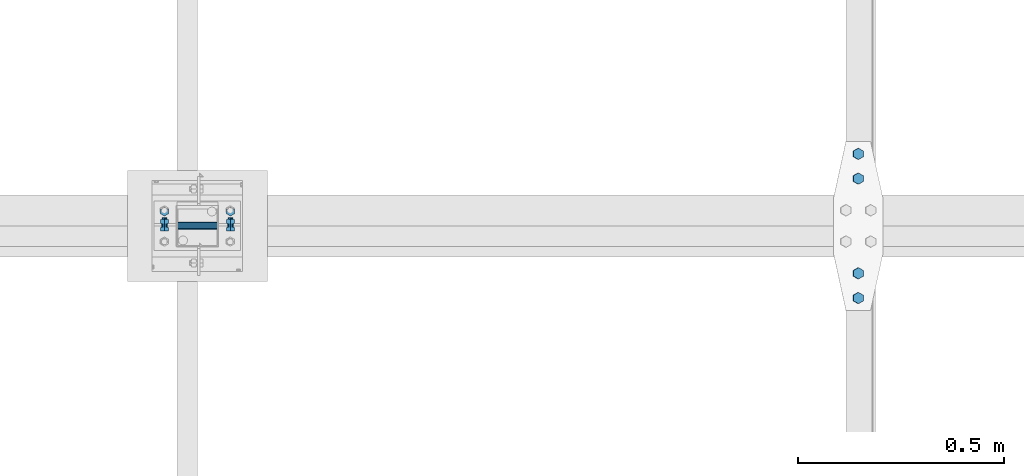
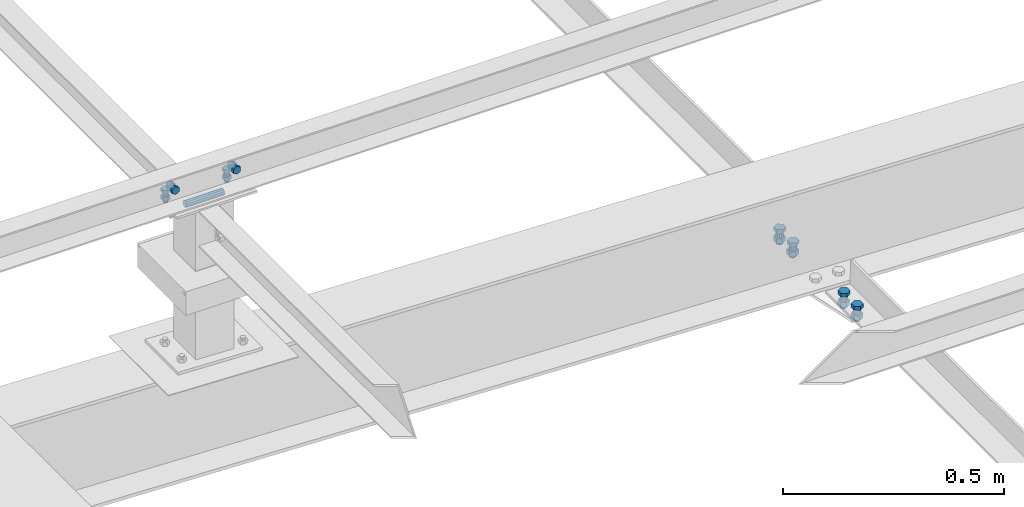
# One storey, part 184 of 3134: 5 mechanical fasteners, 4 elements without a shape of their own.
"""IFC2X3 building model written with IfcOpenShell, lengths in millimetres."""

import ifcopenshell
import ifcopenshell.guid

model = None  # the IFC model being written
_history = None  # IfcOwnerHistory: only IFC2X3 demands one
_inside = {}  # id of a spatial element -> (the spatial element, [elements in it])
_under = {}  # id of a project, library or spatial element -> (it, [spatial elements below it])
_declared = {}  # id of a project -> (the project, [libraries it declares])
_typed = {}  # id of a type object -> (the type object, [elements of that type])
_made_of = {}  # id of a material, layer set ... -> (it, [elements and type objects made of it])


def new_model(schema):
    """Start an empty IFC model of exactly this schema.

    Asked for "IFC4X3", IfcOpenShell would pick the latest addendum, in which some entities
    have other attributes; the version numbers below select the first issue.
    IFC2X3 requires an IfcOwnerHistory on every rooted entity: one is made here for all.
    """
    global model, _history
    if schema == "IFC4X3":
        model = ifcopenshell.file(schema_version=(4, 3, 0, 0))
    else:
        model = ifcopenshell.file(schema=schema)
    _inside.clear()
    _under.clear()
    _declared.clear()
    _typed.clear()
    _made_of.clear()
    _history = None
    if model.schema == "IFC2X3":
        org = make("IfcOrganization", Name="unknown")
        user = make(
            "IfcPersonAndOrganization",
            ThePerson=make("IfcPerson", FamilyName="unknown"),
            TheOrganization=org,
        )
        app = make(
            "IfcApplication",
            ApplicationDeveloper=org,
            Version="unknown",
            ApplicationFullName="unknown",
            ApplicationIdentifier="unknown",
        )
        _history = make(
            "IfcOwnerHistory",
            OwningUser=user,
            OwningApplication=app,
            ChangeAction="ADDED",
            CreationDate=0,
        )
    return model


def make(cls, **values):
    """One entity of the class cls with the attributes given. An attribute that is None is left unset."""
    return model.create_entity(
        cls, **{name: value for name, value in values.items() if value is not None}
    )


def rooted(cls, **values):
    """An entity with a GlobalId (a new one), such as an element, a storey or a relation."""
    return make(cls, GlobalId=ifcopenshell.guid.new(), OwnerHistory=_history, **values)


def si_unit(unit_type, name, prefix=None):
    """IfcSIUnit, for example si_unit("LENGTHUNIT", "METRE", prefix="MILLI")."""
    return make("IfcSIUnit", UnitType=unit_type, Prefix=prefix, Name=name)


def assignment(units):
    """IfcUnitAssignment: the units of a project."""
    return None if units is None else make("IfcUnitAssignment", Units=units)


def point(xyz):
    """IfcCartesianPoint."""
    return None if xyz is None else make("IfcCartesianPoint", Coordinates=xyz)


def direction(xyz):
    """IfcDirection."""
    return None if xyz is None else make("IfcDirection", DirectionRatios=xyz)


def frame(location, z_axis=None, x_axis=None):
    """IfcAxis2Placement3D, a coordinate frame: its origin and axes. An axis left out is left unset."""
    return make(
        "IfcAxis2Placement3D",
        Location=point(location),
        Axis=direction(z_axis),
        RefDirection=direction(x_axis),
    )


def origin_with_axes():
    """The frame at (0, 0, 0) with the z axis (0, 0, 1) and the x axis (1, 0, 0) written out."""
    return frame((0.0, 0.0, 0.0), z_axis=(0.0, 0.0, 1.0), x_axis=(1.0, 0.0, 0.0))


def place(relative_to, where):
    """IfcLocalPlacement: puts the frame where relative to a parent placement (None: the world)."""
    return make(
        "IfcLocalPlacement", PlacementRelTo=relative_to, RelativePlacement=where
    )


def context(
    kind, dimensions, precision=None, world=None, true_north=None, identifier=None
):
    """IfcGeometricRepresentationContext, for example the 3D "Model" context."""
    return make(
        "IfcGeometricRepresentationContext",
        ContextIdentifier=identifier,
        ContextType=kind,
        CoordinateSpaceDimension=dimensions,
        Precision=precision,
        WorldCoordinateSystem=world,
        TrueNorth=true_north,
    )


def subcontext(parent, identifier, kind, view, scale=None):
    """IfcGeometricRepresentationSubContext, for example "Body" below "Model"."""
    return make(
        "IfcGeometricRepresentationSubContext",
        ContextIdentifier=identifier,
        ContextType=kind,
        ParentContext=parent,
        TargetScale=scale,
        TargetView=view,
    )


def project(units=None, contexts=None):
    """IfcProject with its units and contexts."""
    return rooted(
        "IfcProject",
        Name="project",
        RepresentationContexts=contexts,
        UnitsInContext=assignment(units),
    )


def spatial(cls, under=None, at=None, **own):
    """A site, building, storey or space (cls), placed at a placement, below another one or the project."""
    s = rooted(cls, ObjectPlacement=at, **own)
    if under is not None:
        _under.setdefault(under.id(), (under, []))[1].append(s)
    return s


def faces_of(points, faces, orient=None, outer=None):
    """IfcFace entities. A face is a list of loops; a loop is a list of indices into points, from 0.

    orient and outer hold one flag for each loop. By default every Orientation is true, the
    first loop of a face is its IfcFaceOuterBound and the others are IfcFaceBound.
    """
    made = []
    for i, loops in enumerate(faces):
        bounds = []
        for j, loop in enumerate(loops):
            is_outer = j == 0 if outer is None else outer[i][j]
            bounds.append(
                make(
                    "IfcFaceOuterBound" if is_outer else "IfcFaceBound",
                    Bound=make("IfcPolyLoop", Polygon=[points[k] for k in loop]),
                    Orientation=True if orient is None else orient[i][j],
                )
            )
        made.append(make("IfcFace", Bounds=bounds))
    return made


def faceted_brep(points, faces, orient=None, outer=None, voids=None):
    """IfcFacetedBrep: a solid bounded by flat faces; with voids (closed shells), ...WithVoids."""
    shared = [point(p) for p in points]
    hull = make("IfcClosedShell", CfsFaces=faces_of(shared, faces, orient, outer))
    if voids is None:
        return make("IfcFacetedBrep", Outer=hull)
    return make(
        "IfcFacetedBrepWithVoids",
        Outer=hull,
        Voids=[
            make(cls, CfsFaces=faces_of(shared, fs, o, b)) for cls, fs, o, b in voids
        ],
    )


def shape(context_of_items, identifier, shape_type, items):
    """IfcShapeRepresentation: the items that make up one representation, for example the "Body"."""
    return make(
        "IfcShapeRepresentation",
        ContextOfItems=context_of_items,
        RepresentationIdentifier=identifier,
        RepresentationType=shape_type,
        Items=items,
    )


def source(mapping_origin, context_of_items, identifier, shape_type, items):
    """IfcRepresentationMap: a shape defined once, which mapped items show again and again."""
    return make(
        "IfcRepresentationMap",
        MappingOrigin=mapping_origin,
        MappedRepresentation=shape(context_of_items, identifier, shape_type, items),
    )


def transform(
    local_origin,
    x_axis=None,
    y_axis=None,
    z_axis=None,
    scale=None,
    scale2=None,
    scale3=None,
    uniform=True,
):
    """IfcCartesianTransformationOperator3D, or its non-uniform kind. x_axis, y_axis, z_axis: its Axis1, 2, 3."""
    if uniform:
        return make(
            "IfcCartesianTransformationOperator3D",
            Axis1=direction(x_axis),
            Axis2=direction(y_axis),
            LocalOrigin=point(local_origin),
            Scale=scale,
            Axis3=direction(z_axis),
        )
    return make(
        "IfcCartesianTransformationOperator3DnonUniform",
        Axis1=direction(x_axis),
        Axis2=direction(y_axis),
        LocalOrigin=point(local_origin),
        Scale=scale,
        Axis3=direction(z_axis),
        Scale2=scale2,
        Scale3=scale3,
    )


def mapped(mapping_source, mapping_target):
    """IfcMappedItem: shows the shape of a source again, moved by a transform."""
    return make(
        "IfcMappedItem", MappingSource=mapping_source, MappingTarget=mapping_target
    )


def material(Name=None, Category=None):
    """IfcMaterial."""
    return make("IfcMaterial", Name=Name, Category=Category)


def made_of(thing, what):
    """Note that an element or type object is made of a material, layer set ...; save() writes the relation."""
    if what is not None:
        _made_of.setdefault(what.id(), (what, []))[1].append(thing)
    return thing


def type_object(cls, material=None, **own):
    """A type object (cls), such as IfcWallType, which elements share."""
    return made_of(rooted(cls, **own), material)


def element(
    cls,
    number,
    at=None,
    inside=None,
    cuts=None,
    type_object=None,
    material=None,
    context=None,
    identifier="Body",
    shape_type=None,
    held_by="IfcProductDefinitionShape",
    body=None,
    shapes=None,
    **own,
):
    """One element of the class cls, such as IfcWall. Its Tag is "e" and its number.

    at: its placement. inside: the storey or other place that contains it. cuts: it is an
    opening in that element (IfcRelVoidsElement). A single representation is given by context,
    identifier, shape_type and body (its items); several are given by shapes. held_by: the class
    of the entity that holds the representations. save() writes the other relations.
    """
    e = rooted(cls, Tag="e%d" % number, ObjectPlacement=at, **own)
    if body is not None:
        shapes = [shape(context, identifier, shape_type, body)]
    if shapes is not None:
        e.Representation = make(held_by, Representations=shapes)
    if inside is not None:
        _inside.setdefault(inside.id(), (inside, []))[1].append(e)
    if cuts is not None:
        rooted(
            "IfcRelVoidsElement", RelatingBuildingElement=cuts, RelatedOpeningElement=e
        )
    if type_object is not None:
        _typed.setdefault(type_object.id(), (type_object, []))[1].append(e)
    return made_of(e, material)


def aggregate(whole, parts):
    """IfcRelAggregates: a whole, such as a stair, and the parts it consists of."""
    return rooted("IfcRelAggregates", RelatingObject=whole, RelatedObjects=parts)


def save(model, path):
    """Write the relations noted so far, then the file.

    IfcRelAggregates (storeys below a building ...), IfcRelContainedInSpatialStructure (elements
    in a storey), IfcRelDefinesByType, IfcRelAssociatesMaterial and IfcRelDeclares: one each for
    every whole, place, type object, material and project.
    """
    for whole, parts in _under.values():
        aggregate(whole, parts)
    for where, things in _inside.values():
        rooted(
            "IfcRelContainedInSpatialStructure",
            RelatedElements=things,
            RelatingStructure=where,
        )
    for kind, things in _typed.values():
        rooted("IfcRelDefinesByType", RelatedObjects=things, RelatingType=kind)
    for what, things in _made_of.values():
        rooted("IfcRelAssociatesMaterial", RelatedObjects=things, RelatingMaterial=what)
    for by, libraries in _declared.values():
        rooted("IfcRelDeclares", RelatingContext=by, RelatedDefinitions=libraries)
    model.write(path)


model = new_model("IFC2X3")

# Units and contexts
model_context = context("Model", 3, precision=1e-05, world=origin_with_axes())
body_context = subcontext(model_context, "Body", "Model", "MODEL_VIEW")
ifc_project = project(units=[si_unit("LENGTHUNIT", "METRE", prefix="MILLI"), si_unit("AREAUNIT", "SQUARE_METRE"), si_unit("VOLUMEUNIT", "CUBIC_METRE"), si_unit("MASSUNIT", "GRAM", prefix="KILO"), si_unit("TIMEUNIT", "SECOND"), si_unit("PLANEANGLEUNIT", "RADIAN"), si_unit("SOLIDANGLEUNIT", "STERADIAN"), si_unit("THERMODYNAMICTEMPERATUREUNIT", "DEGREE_CELSIUS"), si_unit("LUMINOUSINTENSITYUNIT", "LUMEN")], contexts=[model_context])

# Site, building, storey
site_placement = place(None, origin_with_axes())
site = spatial("IfcSite", under=ifc_project, at=site_placement, CompositionType="ELEMENT")
building_placement = place(site_placement, origin_with_axes())
building = spatial("IfcBuilding", under=site, at=building_placement, Name="Undefined", CompositionType="ELEMENT")
storey_placement = place(building_placement, origin_with_axes())
storey = spatial("IfcBuildingStorey", under=building, at=storey_placement, Name="Undefined", CompositionType="ELEMENT", Elevation=0.0)

# Assembly, mechanical fastener
assembly_1_placement = place(storey_placement, origin_with_axes())
assembly_1 = element("IfcElementAssembly", 1, at=assembly_1_placement, inside=storey, AssemblyPlace="NOTDEFINED", PredefinedType="RIGID_FRAME")
ifc_material = material(Name="8.8")
mechanical_fastener_type = type_object("IfcMechanicalFastenerType", Name="Bolt assembly")
shared_shape_1 = source(origin_with_axes(), body_context, "Body", "Brep", [
    faceted_brep([(10.9696551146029, -14.0, 0.0), (5.48482755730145, -14.0, 9.5), (-5.48482755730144, -14.0, 9.5), (-10.9696551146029, -14.0, 1.34339530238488e-15), (-5.48482755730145, -14.0, -9.5), (5.48482755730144, -14.0, -9.50000000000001), (5.48482755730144, -6.0, -9.50000000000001), (-5.48482755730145, -6.0, -9.5), (-10.9696551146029, -6.0, 1.34339530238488e-15), (-5.48482755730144, -6.0, 9.5), (5.48482755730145, -6.0, 9.5), (10.9696551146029, -6.0, 0.0), (6.0, -6.0, 0.0), (5.19615242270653, -6.0, 3.00000000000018), (2.99999999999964, -6.0, 5.19615242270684), (-6.21801588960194e-13, -6.0, 6.0), (-3.00000000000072, -6.0, 5.19615242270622), (-5.19615242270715, -6.0, 2.9999999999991), (-6.0, -6.0, -1.24360317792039e-12), (-5.19615242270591, -6.0, -3.00000000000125), (-2.99999999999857, -6.0, -5.19615242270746), (1.85874342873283e-12, -6.0, -6.0), (3.00000000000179, -6.0, -5.1961524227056), (5.19615242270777, -6.0, -2.99999999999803), (5.19615242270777, 24.0, -2.99999999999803), (3.00000000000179, 24.0, -5.1961524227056), (1.85874342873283e-12, 24.0, -6.0), (-2.99999999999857, 24.0, -5.19615242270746), (-5.19615242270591, 24.0, -3.00000000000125), (-6.0, 24.0, -1.24360317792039e-12), (-5.19615242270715, 24.0, 2.9999999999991), (-3.00000000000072, 24.0, 5.19615242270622), (-6.21801588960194e-13, 24.0, 6.0), (2.99999999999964, 24.0, 5.19615242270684), (5.19615242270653, 24.0, 3.00000000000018), (6.0, 24.0, 0.0), (10.9696551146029, 6.00000000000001, 0.0), (5.48482755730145, 6.00000000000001, 9.5), (-5.48482755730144, 6.00000000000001, 9.5), (-10.9696551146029, 6.00000000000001, 1.34339530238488e-15), (-5.48482755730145, 6.00000000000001, -9.5), (5.48482755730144, 6.00000000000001, -9.50000000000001), (5.48482755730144, 16.0, -9.50000000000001), (-5.48482755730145, 16.0, -9.5), (-10.9696551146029, 16.0, 1.34339530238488e-15), (-5.48482755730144, 16.0, 9.5), (5.48482755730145, 16.0, 9.5), (10.9696551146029, 16.0, 0.0)], [[[0, 1, 2, 3, 4, 5]], [[6, 7, 8, 9, 10, 11]], [[0, 11, 10, 1]], [[1, 10, 9, 2]], [[2, 9, 8, 3]], [[3, 8, 7, 4]], [[4, 7, 6, 5]], [[5, 6, 11, 0]], [[12, 13, 14, 15, 16, 17, 18, 19, 20, 21, 22, 23]], [[24, 25, 26, 27, 28, 29, 30, 31, 32, 33, 34, 35]], [[12, 35, 34, 13]], [[13, 34, 33, 14]], [[14, 33, 32, 15]], [[15, 32, 31, 16]], [[16, 31, 30, 17]], [[17, 30, 29, 18]], [[18, 29, 28, 19]], [[19, 28, 27, 20]], [[20, 27, 26, 21]], [[21, 26, 25, 22]], [[22, 25, 24, 23]], [[23, 24, 35, 12]], [[36, 37, 38, 39, 40, 41]], [[42, 43, 44, 45, 46, 47]], [[36, 47, 46, 37]], [[37, 46, 45, 38]], [[38, 45, 44, 39]], [[39, 44, 43, 40]], [[40, 43, 42, 41]], [[41, 42, 47, 36]]]),
    faceted_brep([(7.0, -0.1, 0.0), (6.06217782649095, -0.1, 3.50000000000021), (3.49999999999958, -0.1, 6.06217782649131), (-7.25435187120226e-13, -0.1, 7.0), (-3.50000000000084, -0.1, 6.06217782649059), (-6.06217782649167, -0.1, 3.49999999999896), (-7.0, -0.1, -1.45087037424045e-12), (-6.06217782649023, -0.1, -3.50000000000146), (-3.49999999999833, -0.1, -6.06217782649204), (2.1685340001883e-12, -0.1, -7.0), (3.50000000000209, -0.1, -6.06217782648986), (6.0621778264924, -0.1, -3.4999999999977), (6.0621778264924, 6.00000000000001, -3.4999999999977), (3.50000000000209, 6.00000000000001, -6.06217782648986), (2.1685340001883e-12, 6.00000000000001, -7.0), (-3.49999999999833, 6.00000000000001, -6.06217782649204), (-6.06217782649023, 6.00000000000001, -3.50000000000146), (-7.0, 6.00000000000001, -1.45087037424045e-12), (-6.06217782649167, 6.00000000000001, 3.49999999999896), (-3.50000000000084, 6.00000000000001, 6.06217782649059), (-7.25435187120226e-13, 6.00000000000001, 7.0), (3.49999999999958, 6.00000000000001, 6.06217782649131), (6.06217782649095, 6.00000000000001, 3.50000000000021), (7.0, 6.00000000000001, 0.0), (7.0, -5.9, 0.0), (6.06217782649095, -5.9, 3.50000000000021), (3.49999999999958, -5.9, 6.06217782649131), (-7.25435187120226e-13, -5.9, 7.0), (-3.50000000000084, -5.9, 6.06217782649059), (-6.06217782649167, -5.9, 3.49999999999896), (-7.0, -5.9, -1.45087037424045e-12), (-6.06217782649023, -5.9, -3.50000000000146), (-3.49999999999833, -5.9, -6.06217782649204), (2.1685340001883e-12, -5.9, -7.0), (3.50000000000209, -5.9, -6.06217782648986), (6.0621778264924, -5.9, -3.4999999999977), (6.0621778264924, 0.0999999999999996, -3.4999999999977), (3.50000000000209, 0.0999999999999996, -6.06217782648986), (2.1685340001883e-12, 0.0999999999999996, -7.0), (-3.49999999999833, 0.0999999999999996, -6.06217782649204), (-6.06217782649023, 0.0999999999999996, -3.50000000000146), (-7.0, 0.0999999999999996, -1.45087037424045e-12), (-6.06217782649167, 0.0999999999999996, 3.49999999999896), (-3.50000000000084, 0.0999999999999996, 6.06217782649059), (-7.25435187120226e-13, 0.0999999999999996, 7.0), (3.49999999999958, 0.0999999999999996, 6.06217782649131), (6.06217782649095, 0.0999999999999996, 3.50000000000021), (7.0, 0.0999999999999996, 0.0)], [[[0, 1, 2, 3, 4, 5, 6, 7, 8, 9, 10, 11]], [[12, 13, 14, 15, 16, 17, 18, 19, 20, 21, 22, 23]], [[0, 23, 22, 1]], [[1, 22, 21, 2]], [[2, 21, 20, 3]], [[3, 20, 19, 4]], [[4, 19, 18, 5]], [[5, 18, 17, 6]], [[6, 17, 16, 7]], [[7, 16, 15, 8]], [[8, 15, 14, 9]], [[9, 14, 13, 10]], [[10, 13, 12, 11]], [[11, 12, 23, 0]], [[24, 25, 26, 27, 28, 29, 30, 31, 32, 33, 34, 35]], [[36, 37, 38, 39, 40, 41, 42, 43, 44, 45, 46, 47]], [[24, 47, 46, 25]], [[25, 46, 45, 26]], [[26, 45, 44, 27]], [[27, 44, 43, 28]], [[28, 43, 42, 29]], [[29, 42, 41, 30]], [[30, 41, 40, 31]], [[31, 40, 39, 32]], [[32, 39, 38, 33]], [[33, 38, 37, 34]], [[34, 37, 36, 35]], [[35, 36, 47, 24]]]),
])
mechanical_fastener_1_placement = place(assembly_1_placement, frame((3043.33, 40285.0, 4365.0), z_axis=(1.0, 0.0, 0.0), x_axis=(0.0, -1.0, 0.0)))
mechanical_fastener_1 = element("IfcMechanicalFastener", 2, at=mechanical_fastener_1_placement, type_object=mechanical_fastener_type, material=ifc_material, Name="Bolt assembly", NominalDiameter=12.0, NominalLength=30.0, context=body_context, shape_type="MappedRepresentation", body=[
    mapped(shared_shape_1, transform((0.0, -5.32963895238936e-10, -79.9999999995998))),
    mapped(shared_shape_1, transform((0.0, 5.3114490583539e-10, 79.9999999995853))),
])

assembly_2_placement = place(storey_placement, origin_with_axes())
assembly_2 = element("IfcElementAssembly", 3, at=assembly_2_placement, inside=storey, Name="PL8", AssemblyPlace="NOTDEFINED", PredefinedType="RIGID_FRAME")
shared_shape_2 = source(origin_with_axes(), body_context, "Body", "Brep", [
    faceted_brep([(13.856406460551, -21.0000017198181, 0.0), (6.92820323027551, -21.0000017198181, 12.0), (-6.92820323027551, -21.0000017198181, 12.0), (-13.856406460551, -21.0000017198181, 1.69692038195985e-15), (-6.92820323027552, -21.0000017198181, -12.0), (6.9282032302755, -21.0000017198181, -12.0), (6.9282032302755, -11.0000017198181, -12.0), (-6.92820323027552, -11.0000017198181, -12.0), (-13.856406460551, -11.0000017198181, 1.69692038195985e-15), (-6.92820323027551, -11.0000017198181, 12.0), (6.92820323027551, -11.0000017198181, 12.0), (13.856406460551, -11.0000017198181, 0.0), (8.0, -11.0000017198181, 0.0), (6.92820323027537, -11.0000017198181, 4.00000000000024), (3.99999999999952, -11.0000017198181, 6.92820323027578), (-8.29068785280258e-13, -11.0000017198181, 8.0), (-4.00000000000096, -11.0000017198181, 6.92820323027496), (-6.9282032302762, -11.0000017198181, 3.99999999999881), (-8.0, -11.0000017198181, -1.65813757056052e-12), (-6.92820323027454, -11.0000017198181, -4.00000000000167), (-3.99999999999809, -11.0000017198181, -6.92820323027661), (2.47832457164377e-12, -11.0000017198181, -8.0), (4.00000000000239, -11.0000017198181, -6.92820323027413), (6.92820323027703, -11.0000017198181, -3.99999999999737), (6.92820323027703, 23.9999999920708, -3.99999999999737), (4.00000000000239, 23.9999999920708, -6.92820323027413), (2.47832457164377e-12, 23.9999999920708, -8.0), (-3.99999999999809, 23.9999999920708, -6.92820323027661), (-6.92820323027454, 23.9999999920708, -4.00000000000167), (-8.0, 23.9999999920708, -1.65813757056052e-12), (-6.9282032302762, 23.9999999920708, 3.99999999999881), (-4.00000000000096, 23.9999999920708, 6.92820323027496), (-8.29068785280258e-13, 23.9999999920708, 8.0), (3.99999999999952, 23.9999999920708, 6.92820323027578), (6.92820323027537, 23.9999999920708, 4.00000000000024), (8.0, 23.9999999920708, 0.0), (13.856406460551, 3.99999999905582, 0.0), (6.92820323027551, 3.99999999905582, 12.0), (-6.92820323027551, 3.99999999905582, 12.0), (-13.856406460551, 3.99999999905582, 1.69692038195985e-15), (-6.92820323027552, 3.99999999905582, -12.0), (6.9282032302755, 3.99999999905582, -12.0), (6.9282032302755, 16.9999999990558, -12.0), (-6.92820323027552, 16.9999999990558, -12.0), (-13.856406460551, 16.9999999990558, 1.69692038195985e-15), (-6.92820323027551, 16.9999999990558, 12.0), (6.92820323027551, 16.9999999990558, 12.0), (13.856406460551, 16.9999999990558, 0.0)], [[[0, 1, 2, 3, 4, 5]], [[6, 7, 8, 9, 10, 11]], [[0, 11, 10, 1]], [[1, 10, 9, 2]], [[2, 9, 8, 3]], [[3, 8, 7, 4]], [[4, 7, 6, 5]], [[5, 6, 11, 0]], [[12, 13, 14, 15, 16, 17, 18, 19, 20, 21, 22, 23]], [[24, 25, 26, 27, 28, 29, 30, 31, 32, 33, 34, 35]], [[12, 35, 34, 13]], [[13, 34, 33, 14]], [[14, 33, 32, 15]], [[15, 32, 31, 16]], [[16, 31, 30, 17]], [[17, 30, 29, 18]], [[18, 29, 28, 19]], [[19, 28, 27, 20]], [[20, 27, 26, 21]], [[21, 26, 25, 22]], [[22, 25, 24, 23]], [[23, 24, 35, 12]], [[36, 37, 38, 39, 40, 41]], [[42, 43, 44, 45, 46, 47]], [[36, 47, 46, 37]], [[37, 46, 45, 38]], [[38, 45, 44, 39]], [[39, 44, 43, 40]], [[40, 43, 42, 41]], [[41, 42, 47, 36]]]),
    faceted_brep([(9.0, -10.9000017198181, 0.0), (7.79422863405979, -10.9000017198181, 4.50000000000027), (4.49999999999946, -10.9000017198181, 7.79422863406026), (-9.3270238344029e-13, -10.9000017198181, 9.0), (-4.50000000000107, -10.9000017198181, 7.79422863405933), (-7.79422863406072, -10.9000017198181, 4.49999999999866), (-9.0, -10.9000017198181, -1.86540476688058e-12), (-7.79422863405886, -10.9000017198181, -4.50000000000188), (-4.49999999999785, -10.9000017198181, -7.79422863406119), (2.78811514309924e-12, -10.9000017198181, -9.0), (4.50000000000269, -10.9000017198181, -7.7942286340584), (7.79422863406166, -10.9000017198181, -4.49999999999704), (7.79422863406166, -3.9, -4.49999999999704), (4.50000000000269, -3.9, -7.7942286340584), (2.78811514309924e-12, -3.9, -9.0), (-4.49999999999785, -3.9, -7.79422863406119), (-7.79422863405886, -3.9, -4.50000000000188), (-9.0, -3.9, -1.86540476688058e-12), (-7.79422863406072, -3.9, 4.49999999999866), (-4.50000000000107, -3.9, 7.79422863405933), (-9.3270238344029e-13, -3.9, 9.0), (4.49999999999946, -3.9, 7.79422863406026), (7.79422863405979, -3.9, 4.50000000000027), (9.0, -3.9, 0.0), (9.0, -4.10000000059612, 0.0), (7.79422863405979, -4.10000000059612, 4.50000000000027), (4.49999999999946, -4.10000000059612, 7.79422863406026), (-9.3270238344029e-13, -4.10000000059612, 9.0), (-4.50000000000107, -4.10000000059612, 7.79422863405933), (-7.79422863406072, -4.10000000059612, 4.49999999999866), (-9.0, -4.10000000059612, -1.86540476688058e-12), (-7.79422863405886, -4.10000000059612, -4.50000000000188), (-4.49999999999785, -4.10000000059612, -7.79422863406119), (2.78811514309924e-12, -4.10000000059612, -9.0), (4.50000000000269, -4.10000000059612, -7.7942286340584), (7.79422863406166, -4.10000000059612, -4.49999999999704), (7.79422863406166, 4.00000375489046, -4.49999999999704), (4.50000000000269, 4.00000375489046, -7.7942286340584), (2.78811514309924e-12, 4.00000375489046, -9.0), (-4.49999999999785, 4.00000375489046, -7.79422863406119), (-7.79422863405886, 4.00000375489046, -4.50000000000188), (-9.0, 4.00000375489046, -1.86540476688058e-12), (-7.79422863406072, 4.00000375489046, 4.49999999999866), (-4.50000000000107, 4.00000375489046, 7.79422863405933), (-9.3270238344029e-13, 4.00000375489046, 9.0), (4.49999999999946, 4.00000375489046, 7.79422863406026), (7.79422863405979, 4.00000375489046, 4.50000000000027), (9.0, 4.00000375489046, 0.0)], [[[0, 1, 2, 3, 4, 5, 6, 7, 8, 9, 10, 11]], [[12, 13, 14, 15, 16, 17, 18, 19, 20, 21, 22, 23]], [[0, 23, 22, 1]], [[1, 22, 21, 2]], [[2, 21, 20, 3]], [[3, 20, 19, 4]], [[4, 19, 18, 5]], [[5, 18, 17, 6]], [[6, 17, 16, 7]], [[7, 16, 15, 8]], [[8, 15, 14, 9]], [[9, 14, 13, 10]], [[10, 13, 12, 11]], [[11, 12, 23, 0]], [[24, 25, 26, 27, 28, 29, 30, 31, 32, 33, 34, 35]], [[36, 37, 38, 39, 40, 41, 42, 43, 44, 45, 46, 47]], [[24, 47, 46, 25]], [[25, 46, 45, 26]], [[26, 45, 44, 27]], [[27, 44, 43, 28]], [[28, 43, 42, 29]], [[29, 42, 41, 30]], [[30, 41, 40, 31]], [[31, 40, 39, 32]], [[32, 39, 38, 33]], [[33, 38, 37, 34]], [[34, 37, 36, 35]], [[35, 36, 47, 24]]]),
])
mechanical_fastener_2_placement = place(assembly_2_placement, frame((4647.50483525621, 40365.0, 3576.15051900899), z_axis=(-0.999388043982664, 0.0, 0.0349791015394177), x_axis=(0.0, 1.0, 0.0)))
mechanical_fastener_2 = element("IfcMechanicalFastener", 4, at=mechanical_fastener_2_placement, type_object=mechanical_fastener_type, material=ifc_material, Name="Bolt assembly", NominalDiameter=16.0, NominalLength=35.0, context=body_context, shape_type="MappedRepresentation", body=[
    mapped(shared_shape_2, transform((0.0, 0.0, 0.0))),
    mapped(shared_shape_2, transform((59.9999999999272, 0.0, 5.40239852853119e-10))),
])
aggregate(assembly_2, [mechanical_fastener_2])

assembly_3_placement = place(storey_placement, origin_with_axes())
assembly_3 = element("IfcElementAssembly", 5, at=assembly_3_placement, inside=storey, AssemblyPlace="NOTDEFINED", PredefinedType="RIGID_FRAME")
shared_shape_3 = source(origin_with_axes(), body_context, "Body", "Brep", [
    faceted_brep([(13.856406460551, -21.0000017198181, 0.0), (6.92820323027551, -21.0000017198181, 12.0), (-6.92820323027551, -21.0000017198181, 12.0), (-13.856406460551, -21.0000017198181, 1.69692038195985e-15), (-6.92820323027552, -21.0000017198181, -12.0), (6.9282032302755, -21.0000017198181, -12.0), (6.9282032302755, -11.0000017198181, -12.0), (-6.92820323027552, -11.0000017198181, -12.0), (-13.856406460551, -11.0000017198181, 1.69692038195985e-15), (-6.92820323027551, -11.0000017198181, 12.0), (6.92820323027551, -11.0000017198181, 12.0), (13.856406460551, -11.0000017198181, 0.0), (8.0, -11.0000017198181, 0.0), (6.92820323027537, -11.0000017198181, 4.00000000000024), (3.99999999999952, -11.0000017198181, 6.92820323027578), (-8.29068785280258e-13, -11.0000017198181, 8.0), (-4.00000000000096, -11.0000017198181, 6.92820323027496), (-6.9282032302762, -11.0000017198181, 3.99999999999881), (-8.0, -11.0000017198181, -1.65813757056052e-12), (-6.92820323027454, -11.0000017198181, -4.00000000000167), (-3.99999999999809, -11.0000017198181, -6.92820323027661), (2.47832457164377e-12, -11.0000017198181, -8.0), (4.00000000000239, -11.0000017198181, -6.92820323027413), (6.92820323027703, -11.0000017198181, -3.99999999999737), (6.92820323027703, 23.9999999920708, -3.99999999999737), (4.00000000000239, 23.9999999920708, -6.92820323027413), (2.47832457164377e-12, 23.9999999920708, -8.0), (-3.99999999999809, 23.9999999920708, -6.92820323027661), (-6.92820323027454, 23.9999999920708, -4.00000000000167), (-8.0, 23.9999999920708, -1.65813757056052e-12), (-6.9282032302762, 23.9999999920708, 3.99999999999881), (-4.00000000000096, 23.9999999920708, 6.92820323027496), (-8.29068785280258e-13, 23.9999999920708, 8.0), (3.99999999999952, 23.9999999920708, 6.92820323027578), (6.92820323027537, 23.9999999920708, 4.00000000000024), (8.0, 23.9999999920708, 0.0), (13.856406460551, 3.99999999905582, 0.0), (6.92820323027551, 3.99999999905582, 12.0), (-6.92820323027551, 3.99999999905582, 12.0), (-13.856406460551, 3.99999999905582, 1.69692038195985e-15), (-6.92820323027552, 3.99999999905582, -12.0), (6.9282032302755, 3.99999999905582, -12.0), (6.9282032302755, 16.9999999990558, -12.0), (-6.92820323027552, 16.9999999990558, -12.0), (-13.856406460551, 16.9999999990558, 1.69692038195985e-15), (-6.92820323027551, 16.9999999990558, 12.0), (6.92820323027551, 16.9999999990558, 12.0), (13.856406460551, 16.9999999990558, 0.0)], [[[0, 1, 2, 3, 4, 5]], [[6, 7, 8, 9, 10, 11]], [[0, 11, 10, 1]], [[1, 10, 9, 2]], [[2, 9, 8, 3]], [[3, 8, 7, 4]], [[4, 7, 6, 5]], [[5, 6, 11, 0]], [[12, 13, 14, 15, 16, 17, 18, 19, 20, 21, 22, 23]], [[24, 25, 26, 27, 28, 29, 30, 31, 32, 33, 34, 35]], [[12, 35, 34, 13]], [[13, 34, 33, 14]], [[14, 33, 32, 15]], [[15, 32, 31, 16]], [[16, 31, 30, 17]], [[17, 30, 29, 18]], [[18, 29, 28, 19]], [[19, 28, 27, 20]], [[20, 27, 26, 21]], [[21, 26, 25, 22]], [[22, 25, 24, 23]], [[23, 24, 35, 12]], [[36, 37, 38, 39, 40, 41]], [[42, 43, 44, 45, 46, 47]], [[36, 47, 46, 37]], [[37, 46, 45, 38]], [[38, 45, 44, 39]], [[39, 44, 43, 40]], [[40, 43, 42, 41]], [[41, 42, 47, 36]]]),
    faceted_brep([(9.0, -4.10000000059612, 0.0), (7.79422863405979, -4.10000000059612, 4.50000000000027), (4.49999999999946, -4.10000000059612, 7.79422863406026), (-9.3270238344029e-13, -4.10000000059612, 9.0), (-4.50000000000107, -4.10000000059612, 7.79422863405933), (-7.79422863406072, -4.10000000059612, 4.49999999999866), (-9.0, -4.10000000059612, -1.86540476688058e-12), (-7.79422863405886, -4.10000000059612, -4.50000000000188), (-4.49999999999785, -4.10000000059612, -7.79422863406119), (2.78811514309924e-12, -4.10000000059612, -9.0), (4.50000000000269, -4.10000000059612, -7.7942286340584), (7.79422863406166, -4.10000000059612, -4.49999999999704), (7.79422863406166, 4.00000375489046, -4.49999999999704), (4.50000000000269, 4.00000375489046, -7.7942286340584), (2.78811514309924e-12, 4.00000375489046, -9.0), (-4.49999999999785, 4.00000375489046, -7.79422863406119), (-7.79422863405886, 4.00000375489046, -4.50000000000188), (-9.0, 4.00000375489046, -1.86540476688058e-12), (-7.79422863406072, 4.00000375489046, 4.49999999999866), (-4.50000000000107, 4.00000375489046, 7.79422863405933), (-9.3270238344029e-13, 4.00000375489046, 9.0), (4.49999999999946, 4.00000375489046, 7.79422863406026), (7.79422863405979, 4.00000375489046, 4.50000000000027), (9.0, 4.00000375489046, 0.0), (9.0, -10.9000017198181, 0.0), (7.79422863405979, -10.9000017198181, 4.50000000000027), (4.49999999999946, -10.9000017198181, 7.79422863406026), (-9.3270238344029e-13, -10.9000017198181, 9.0), (-4.50000000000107, -10.9000017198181, 7.79422863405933), (-7.79422863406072, -10.9000017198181, 4.49999999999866), (-9.0, -10.9000017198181, -1.86540476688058e-12), (-7.79422863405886, -10.9000017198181, -4.50000000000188), (-4.49999999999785, -10.9000017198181, -7.79422863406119), (2.78811514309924e-12, -10.9000017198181, -9.0), (4.50000000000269, -10.9000017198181, -7.7942286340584), (7.79422863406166, -10.9000017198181, -4.49999999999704), (7.79422863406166, -3.9, -4.49999999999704), (4.50000000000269, -3.9, -7.7942286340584), (2.78811514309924e-12, -3.9, -9.0), (-4.49999999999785, -3.9, -7.79422863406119), (-7.79422863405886, -3.9, -4.50000000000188), (-9.0, -3.9, -1.86540476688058e-12), (-7.79422863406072, -3.9, 4.49999999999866), (-4.50000000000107, -3.9, 7.79422863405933), (-9.3270238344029e-13, -3.9, 9.0), (4.49999999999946, -3.9, 7.79422863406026), (7.79422863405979, -3.9, 4.50000000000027), (9.0, -3.9, 0.0)], [[[0, 1, 2, 3, 4, 5, 6, 7, 8, 9, 10, 11]], [[12, 13, 14, 15, 16, 17, 18, 19, 20, 21, 22, 23]], [[0, 23, 22, 1]], [[1, 22, 21, 2]], [[2, 21, 20, 3]], [[3, 20, 19, 4]], [[4, 19, 18, 5]], [[5, 18, 17, 6]], [[6, 17, 16, 7]], [[7, 16, 15, 8]], [[8, 15, 14, 9]], [[9, 14, 13, 10]], [[10, 13, 12, 11]], [[11, 12, 23, 0]], [[24, 25, 26, 27, 28, 29, 30, 31, 32, 33, 34, 35]], [[36, 37, 38, 39, 40, 41, 42, 43, 44, 45, 46, 47]], [[24, 47, 46, 25]], [[25, 46, 45, 26]], [[26, 45, 44, 27]], [[27, 44, 43, 28]], [[28, 43, 42, 29]], [[29, 42, 41, 30]], [[30, 41, 40, 31]], [[31, 40, 39, 32]], [[32, 39, 38, 33]], [[33, 38, 37, 34]], [[34, 37, 36, 35]], [[35, 36, 47, 24]]]),
])
mechanical_fastener_3_placement = place(assembly_3_placement, frame((4647.50483526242, 40075.0, 3576.15051900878), z_axis=(-0.999388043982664, 0.0, 0.0349791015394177), x_axis=(0.0, 1.0, 0.0)))
mechanical_fastener_3 = element("IfcMechanicalFastener", 6, at=mechanical_fastener_3_placement, type_object=mechanical_fastener_type, material=ifc_material, Name="Bolt assembly", NominalDiameter=16.0, NominalLength=35.0, context=body_context, shape_type="MappedRepresentation", body=[
    mapped(shared_shape_3, transform((0.0, 0.0, 0.0))),
    mapped(shared_shape_3, transform((59.9999999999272, 0.0, 5.40239852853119e-10))),
])
aggregate(assembly_3, [mechanical_fastener_3])

assembly_4_placement = place(storey_placement, origin_with_axes())
assembly_4 = element("IfcElementAssembly", 7, at=assembly_4_placement, inside=storey, AssemblyPlace="NOTDEFINED", PredefinedType="RIGID_FRAME")
shared_shape_4 = source(origin_with_axes(), body_context, "Body", "Brep", [
    faceted_brep([(9.0, -50.0, 0.0), (7.79422863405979, -50.0, 4.50000000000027), (4.49999999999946, -50.0, 7.79422863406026), (-9.3270238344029e-13, -50.0, 9.0), (-4.50000000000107, -50.0, 7.79422863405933), (-7.79422863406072, -50.0, 4.49999999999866), (-9.0, -50.0, -1.86540476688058e-12), (-7.79422863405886, -50.0, -4.50000000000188), (-4.49999999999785, -50.0, -7.79422863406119), (2.78811514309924e-12, -50.0, -9.0), (4.50000000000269, -50.0, -7.7942286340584), (7.79422863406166, -50.0, -4.49999999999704), (7.79422863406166, 50.1, -4.49999999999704), (4.50000000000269, 50.1, -7.7942286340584), (2.78811514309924e-12, 50.1, -9.0), (-4.49999999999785, 50.1, -7.79422863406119), (-7.79422863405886, 50.1, -4.50000000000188), (-9.0, 50.1, -1.86540476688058e-12), (-7.79422863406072, 50.1, 4.49999999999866), (-4.50000000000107, 50.1, 7.79422863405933), (-9.3270238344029e-13, 50.1, 9.0), (4.49999999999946, 50.1, 7.79422863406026), (7.79422863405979, 50.1, 4.50000000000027), (9.0, 50.1, 0.0)], [[[0, 1, 2, 3, 4, 5, 6, 7, 8, 9, 10, 11]], [[12, 13, 14, 15, 16, 17, 18, 19, 20, 21, 22, 23]], [[0, 23, 22, 1]], [[1, 22, 21, 2]], [[2, 21, 20, 3]], [[3, 20, 19, 4]], [[4, 19, 18, 5]], [[5, 18, 17, 6]], [[6, 17, 16, 7]], [[7, 16, 15, 8]], [[8, 15, 14, 9]], [[9, 14, 13, 10]], [[10, 13, 12, 11]], [[11, 12, 23, 0]]]),
])
mechanical_fastener_4_placement = place(assembly_4_placement, frame((3043.33, 40250.0, 4345.0), z_axis=(0.0, 1.0, 0.0), x_axis=(0.0, 0.0, 1.0)))
mechanical_fastener_4 = element("IfcMechanicalFastener", 8, at=mechanical_fastener_4_placement, type_object=mechanical_fastener_type, material=ifc_material, Name="Bolt assembly", NominalDiameter=16.0, NominalLength=100.0, context=body_context, shape_type="MappedRepresentation", body=[
    mapped(shared_shape_4, transform((0.0, 0.0, 0.0))),
])
aggregate(assembly_4, [mechanical_fastener_4])

# Mechanical fastener
shared_shape_5 = source(origin_with_axes(), body_context, "Body", "Brep", [
    faceted_brep([(10.9696551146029, -12.0003169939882, 0.0), (5.48482755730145, -12.0003169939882, 9.5), (-5.48482755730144, -12.0003169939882, 9.5), (-10.9696551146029, -12.0003169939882, 1.34339530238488e-15), (-5.48482755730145, -12.0003169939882, -9.5), (5.48482755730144, -12.0003169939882, -9.50000000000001), (5.48482755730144, -4.00031699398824, -9.50000000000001), (-5.48482755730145, -4.00031699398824, -9.5), (-10.9696551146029, -4.00031699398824, 1.34339530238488e-15), (-5.48482755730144, -4.00031699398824, 9.5), (5.48482755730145, -4.00031699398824, 9.5), (10.9696551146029, -4.00031699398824, 0.0), (6.0, -4.00031699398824, 0.0), (5.19615242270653, -4.00031699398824, 3.00000000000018), (2.99999999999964, -4.00031699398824, 5.19615242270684), (-6.21801588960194e-13, -4.00031699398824, 6.0), (-3.00000000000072, -4.00031699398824, 5.19615242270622), (-5.19615242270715, -4.00031699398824, 2.9999999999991), (-6.0, -4.00031699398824, -1.24360317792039e-12), (-5.19615242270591, -4.00031699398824, -3.00000000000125), (-2.99999999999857, -4.00031699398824, -5.19615242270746), (1.85874342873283e-12, -4.00031699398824, -6.0), (3.00000000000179, -4.00031699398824, -5.1961524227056), (5.19615242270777, -4.00031699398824, -2.99999999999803), (5.19615242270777, 20.9997148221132, -2.99999999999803), (3.00000000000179, 20.9997148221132, -5.1961524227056), (1.85874342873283e-12, 20.9997148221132, -6.0), (-2.99999999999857, 20.9997148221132, -5.19615242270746), (-5.19615242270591, 20.9997148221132, -3.00000000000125), (-6.0, 20.9997148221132, -1.24360317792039e-12), (-5.19615242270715, 20.9997148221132, 2.9999999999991), (-3.00000000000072, 20.9997148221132, 5.19615242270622), (-6.21801588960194e-13, 20.9997148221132, 6.0), (2.99999999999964, 20.9997148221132, 5.19615242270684), (5.19615242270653, 20.9997148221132, 3.00000000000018), (6.0, 20.9997148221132, 0.0), (10.9696551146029, 6.00000000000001, 0.0), (5.48482755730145, 6.00000000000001, 9.5), (-5.48482755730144, 6.00000000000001, 9.5), (-10.9696551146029, 6.00000000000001, 1.34339530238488e-15), (-5.48482755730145, 6.00000000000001, -9.5), (5.48482755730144, 6.00000000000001, -9.50000000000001), (5.48482755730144, 16.0, -9.50000000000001), (-5.48482755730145, 16.0, -9.5), (-10.9696551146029, 16.0, 1.34339530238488e-15), (-5.48482755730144, 16.0, 9.5), (5.48482755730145, 16.0, 9.5), (10.9696551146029, 16.0, 0.0)], [[[0, 1, 2, 3, 4, 5]], [[6, 7, 8, 9, 10, 11]], [[0, 11, 10, 1]], [[1, 10, 9, 2]], [[2, 9, 8, 3]], [[3, 8, 7, 4]], [[4, 7, 6, 5]], [[5, 6, 11, 0]], [[12, 13, 14, 15, 16, 17, 18, 19, 20, 21, 22, 23]], [[24, 25, 26, 27, 28, 29, 30, 31, 32, 33, 34, 35]], [[12, 35, 34, 13]], [[13, 34, 33, 14]], [[14, 33, 32, 15]], [[15, 32, 31, 16]], [[16, 31, 30, 17]], [[17, 30, 29, 18]], [[18, 29, 28, 19]], [[19, 28, 27, 20]], [[20, 27, 26, 21]], [[21, 26, 25, 22]], [[22, 25, 24, 23]], [[23, 24, 35, 12]], [[36, 37, 38, 39, 40, 41]], [[42, 43, 44, 45, 46, 47]], [[36, 47, 46, 37]], [[37, 46, 45, 38]], [[38, 45, 44, 39]], [[39, 44, 43, 40]], [[40, 43, 42, 41]], [[41, 42, 47, 36]]]),
    faceted_brep([(7.0, -3.90031233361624, 0.0), (6.06217782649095, -3.90027629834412, 3.50000000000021), (3.49999999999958, -3.90031233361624, 6.06217782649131), (-7.25435187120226e-13, -3.90027629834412, 7.0), (-3.50000000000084, -3.90027629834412, 6.06217782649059), (-6.06217782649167, -3.90027629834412, 3.49999999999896), (-7.0, -3.90031233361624, -1.45087037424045e-12), (-6.06217782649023, -3.90027629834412, -3.50000000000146), (-3.49999999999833, -3.90027629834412, -6.06217782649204), (2.1685340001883e-12, -3.90027629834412, -7.0), (3.50000000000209, -3.90027629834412, -6.06217782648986), (6.0621778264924, -3.90031233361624, -3.4999999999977), (6.0621778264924, 0.0996830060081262, -3.4999999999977), (3.50000000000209, 0.0996830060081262, -6.06217782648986), (2.1685340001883e-12, 0.0996830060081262, -7.0), (-3.49999999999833, 0.0996830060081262, -6.06217782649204), (-6.06217782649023, 0.0996830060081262, -3.50000000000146), (-7.0, 0.0996830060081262, -1.45087037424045e-12), (-6.06217782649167, 0.0997148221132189, 3.49999999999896), (-3.50000000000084, 0.0997148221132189, 6.06217782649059), (-7.25435187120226e-13, 0.0996830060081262, 7.0), (3.49999999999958, 0.0996830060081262, 6.06217782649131), (6.06217782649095, 0.0996830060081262, 3.50000000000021), (7.0, 0.0997148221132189, 0.0), (7.0, -0.1, 0.0), (6.06217782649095, -0.1, 3.50000000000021), (3.49999999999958, -0.1, 6.06217782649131), (-7.25435187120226e-13, -0.1, 7.0), (-3.50000000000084, -0.1, 6.06217782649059), (-6.06217782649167, -0.1, 3.49999999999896), (-7.0, -0.1, -1.45087037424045e-12), (-6.06217782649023, -0.1, -3.50000000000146), (-3.49999999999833, -0.1, -6.06217782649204), (2.1685340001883e-12, -0.1, -7.0), (3.50000000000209, -0.1, -6.06217782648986), (6.0621778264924, -0.1, -3.4999999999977), (6.0621778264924, 6.00000000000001, -3.4999999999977), (3.50000000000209, 6.00000000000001, -6.06217782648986), (2.1685340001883e-12, 6.00000000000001, -7.0), (-3.49999999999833, 6.00000000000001, -6.06217782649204), (-6.06217782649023, 6.00000000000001, -3.50000000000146), (-7.0, 6.00000000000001, -1.45087037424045e-12), (-6.06217782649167, 6.00000000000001, 3.49999999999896), (-3.50000000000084, 6.00000000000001, 6.06217782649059), (-7.25435187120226e-13, 6.00000000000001, 7.0), (3.49999999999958, 6.00000000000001, 6.06217782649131), (6.06217782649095, 6.00000000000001, 3.50000000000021), (7.0, 6.00000000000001, 0.0)], [[[0, 1, 2, 3, 4, 5, 6, 7, 8, 9, 10, 11]], [[12, 13, 14, 15, 16, 17, 18, 19, 20, 21, 22, 23]], [[0, 23, 22, 1]], [[1, 22, 21, 2]], [[2, 21, 20, 3]], [[3, 20, 19, 4]], [[4, 19, 18, 5]], [[5, 18, 17, 6]], [[6, 17, 16, 7]], [[7, 16, 15, 8]], [[8, 15, 14, 9]], [[9, 14, 13, 10]], [[10, 13, 12, 11]], [[11, 12, 23, 0]], [[24, 25, 26, 27, 28, 29, 30, 31, 32, 33, 34, 35]], [[36, 37, 38, 39, 40, 41, 42, 43, 44, 45, 46, 47]], [[24, 47, 46, 25]], [[25, 46, 45, 26]], [[26, 45, 44, 27]], [[27, 44, 43, 28]], [[28, 43, 42, 29]], [[29, 42, 41, 30]], [[30, 41, 40, 31]], [[31, 40, 39, 32]], [[32, 39, 38, 33]], [[33, 38, 37, 34]], [[34, 37, 36, 35]], [[35, 36, 47, 24]]]),
])
mechanical_fastener_5_placement = place(assembly_1_placement, frame((3043.33, 40250.0, 4400.0), z_axis=(1.0, 0.0, 0.0), x_axis=(0.0, 0.0, -1.0)))
mechanical_fastener_5 = element("IfcMechanicalFastener", 9, at=mechanical_fastener_5_placement, type_object=mechanical_fastener_type, material=ifc_material, Name="Bolt assembly", NominalDiameter=12.0, NominalLength=25.0, context=body_context, shape_type="MappedRepresentation", body=[
    mapped(shared_shape_5, transform((0.0, -5.32963895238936e-10, -79.9999999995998))),
    mapped(shared_shape_5, transform((0.0, 5.3114490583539e-10, 79.9999999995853))),
])

aggregate(assembly_1, [mechanical_fastener_5, mechanical_fastener_1])

save(model, "model.ifc")
